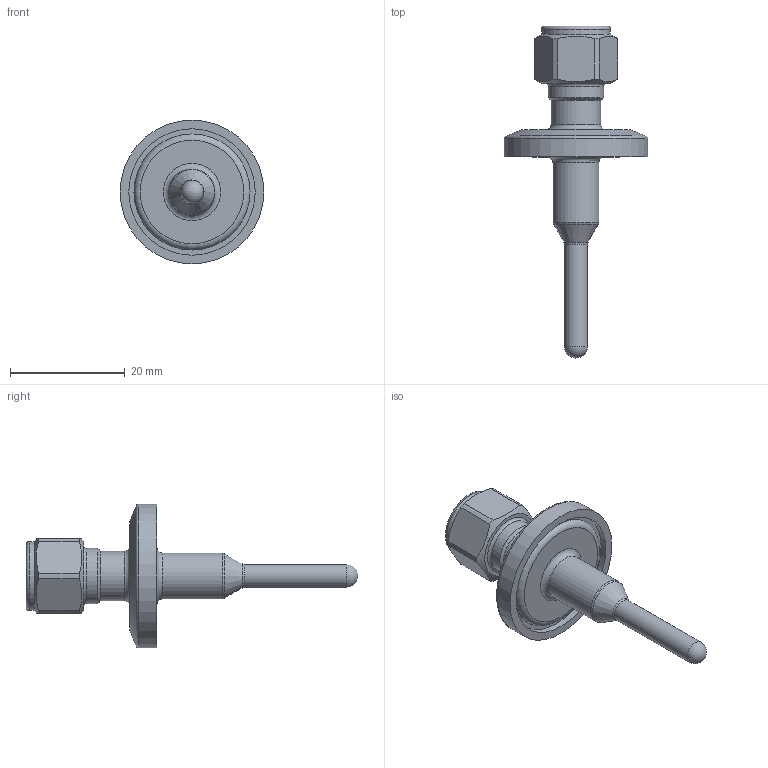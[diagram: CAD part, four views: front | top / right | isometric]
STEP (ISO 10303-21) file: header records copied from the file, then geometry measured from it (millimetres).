
FILE_DESCRIPTION((''),'2;1');
FILE_NAME('C:\TurckZip\THW-3-TRI3_4-A4-L035.stp','2008-02-06T13:47:42',('IKOROL'),(''),'Autodesk Inventor 2008','Autodesk Inventor 2008','');
FILE_SCHEMA(('CONFIG_CONTROL_DESIGN'));
Length unit declared in the file: millimetre
Products named in the file (1): Part2
Bounding box: 25 x 57.75 x 25 mm (x, y, z)
Volume: 4854 mm3; surface area: 2798.7 mm2
Topology: 1 solids, 1 shells, 46 faces, 98 edges, 60 vertices
Faces by surface type: cylinder 17, plane 15, cone 5, torus 4, bspline 4, sphere 1
Full cylindrical faces by diameter (mm): 3 x1, 4 x1, 7.625 x1, 8 x1, 8.18 x1, 8.6 x1, 9.6 x1, 11.99 x1, 20.184 x1, 22 x1, 25 x1
Entity records: 1237 total; most frequent: CARTESIAN_POINT 371, DIRECTION 186, ORIENTED_EDGE 136, AXIS2_PLACEMENT_3D 87, EDGE_LOOP 78, EDGE_CURVE 68, VERTEX_POINT 56, FACE_OUTER_BOUND 46
